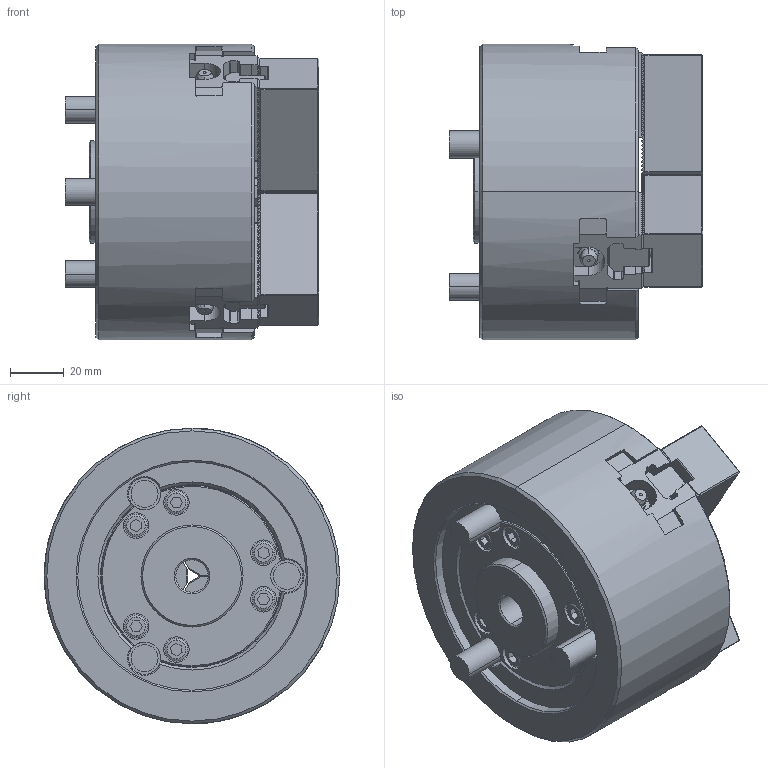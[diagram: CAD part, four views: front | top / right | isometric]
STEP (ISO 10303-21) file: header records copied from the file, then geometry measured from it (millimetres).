
FILE_DESCRIPTION (( 'STEP AP214' ), '1' );
FILE_NAME ('B-204_61P325057-8_OC.STEP', '2020-10-09T04:53:24', ( '' ), ( '' ), 'SwSTEP 2.0', 'SolidWorks 2017', '' );
FILE_SCHEMA (( 'AUTOMOTIVE_DESIGN' ));
Length unit declared in the file: millimetre
Products named in the file (5): Bアナツキ M8×20_1; 61P422112-4_SOFT JAW; 61P422113-1_T-NUT; B-204_BASE^61P325040-9_ASSY; B-204_61P325057-8_OC
Assembly tree (13 placements, depth 2):
  B-204_61P325057-8_OC
    B-204_BASE^61P325040-9_ASSY
    61P422113-1_T-NUT  x3
    61P422112-4_SOFT JAW  x3
    Bアナツキ M8×20_1  x6
Bounding box: 94.5 x 110 x 110 mm (x, y, z)
Volume: 565941.6 mm3; surface area: 110100.6 mm2
Topology: 13 solids, 13 shells, 3023 faces, 8582 edges, 5670 vertices
Faces by surface type: plane 2105, cylinder 681, bspline 145, cone 92
Entity records: 81016 total; most frequent: CARTESIAN_POINT 19656, ORIENTED_EDGE 12712, DIRECTION 10782, EDGE_CURVE 6356, LINE 4870, VECTOR 4870, VERTEX_POINT 4202, AXIS2_PLACEMENT_3D 2956
